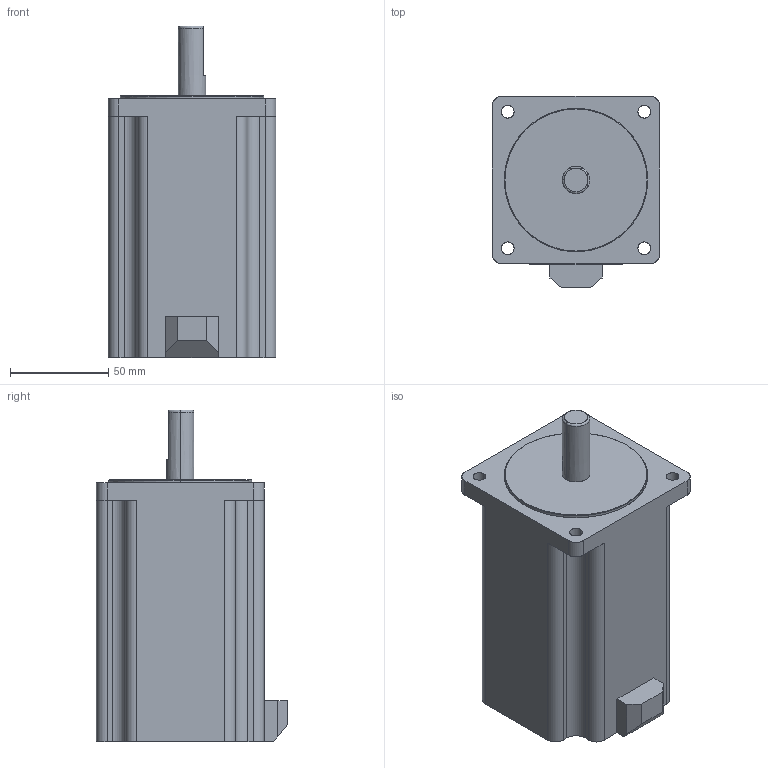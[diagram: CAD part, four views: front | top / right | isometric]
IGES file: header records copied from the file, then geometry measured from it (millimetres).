
Start section: SolidWorks IGES file using analytic representation for surfaces
Bounding box: 85.5 x 97.5 x 169 mm (x, y, z)
Surface area: 60778.5 mm2 (no closed solid volume)
Topology: 0 solids, 0 shells, 70 faces, 1342 edges, 1342 vertices
Faces by surface type: bspline 36, revolution 34
